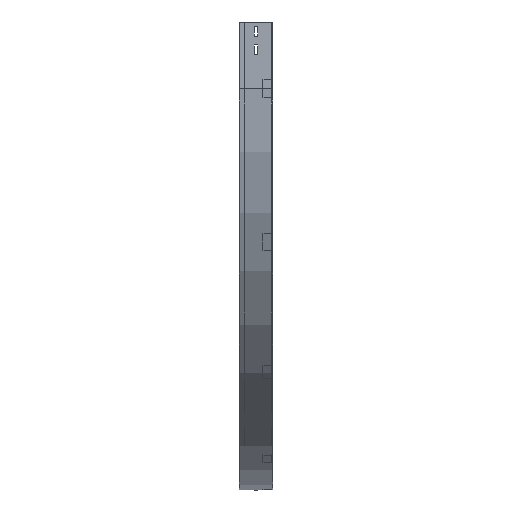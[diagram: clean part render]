
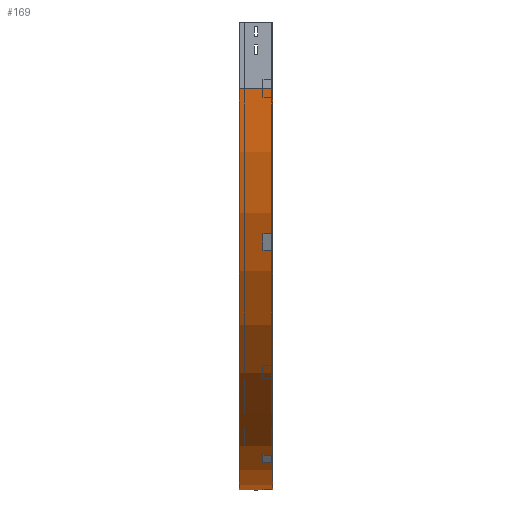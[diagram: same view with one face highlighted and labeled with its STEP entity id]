
A CAD part, left-side view. The second image highlights one B-rep face of the part: STEP entity #169.
In plain terms, the highlighted cylindrical face has radius 900 mm (diameter 1800 mm), a partial arc.
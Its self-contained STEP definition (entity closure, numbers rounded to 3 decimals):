
#59 = CARTESIAN_POINT ( 'NONE',  ( 900., 75., -1050. ) ) ;
#78 = AXIS2_PLACEMENT_3D ( 'NONE', #3080, #475, #415 ) ;
#139 = CIRCLE ( 'NONE', #1144, 900. ) ;
#169 = ADVANCED_FACE ( 'NONE', ( #940 ), #1549, .T. ) ;
#372 = CARTESIAN_POINT ( 'NONE',  ( 0., 0., -150. ) ) ;
#377 = VECTOR ( 'NONE', #1387, 1000. ) ;
#414 = AXIS2_PLACEMENT_3D ( 'NONE', #963, #3051, #3384 ) ;
#415 = DIRECTION ( 'NONE',  ( -1., 0., 0. ) ) ;
#437 = CARTESIAN_POINT ( 'NONE',  ( 0., 75., -150. ) ) ;
#450 = ORIENTED_EDGE ( 'NONE', *, *, #3195, .F. ) ;
#475 = DIRECTION ( 'NONE',  ( 0., -1., 0. ) ) ;
#696 = EDGE_CURVE ( 'NONE', #1860, #2724, #139, .T. ) ;
#779 = EDGE_CURVE ( 'NONE', #2304, #3407, #1395, .T. ) ;
#805 = LINE ( 'NONE', #3102, #377 ) ;
#940 = FACE_OUTER_BOUND ( 'NONE', #2545, .T. ) ;
#963 = CARTESIAN_POINT ( 'NONE',  ( 900., 0., -150. ) ) ;
#994 = ORIENTED_EDGE ( 'NONE', *, *, #3452, .T. ) ;
#1144 = AXIS2_PLACEMENT_3D ( 'NONE', #2208, #1814, #1306 ) ;
#1246 = DIRECTION ( 'NONE',  ( 0., -1., 0. ) ) ;
#1288 = CARTESIAN_POINT ( 'NONE',  ( 900., 0., -1050. ) ) ;
#1306 = DIRECTION ( 'NONE',  ( -1., 0., 0. ) ) ;
#1324 = LINE ( 'NONE', #1288, #3172 ) ;
#1387 = DIRECTION ( 'NONE',  ( 0., -1., 0. ) ) ;
#1395 = CIRCLE ( 'NONE', #78, 900. ) ;
#1549 = CYLINDRICAL_SURFACE ( 'NONE', #414, 900. ) ;
#1814 = DIRECTION ( 'NONE',  ( 0., -1., 0. ) ) ;
#1860 = VERTEX_POINT ( 'NONE', #437 ) ;
#2208 = CARTESIAN_POINT ( 'NONE',  ( 900., 75., -150. ) ) ;
#2304 = VERTEX_POINT ( 'NONE', #372 ) ;
#2454 = ORIENTED_EDGE ( 'NONE', *, *, #696, .T. ) ;
#2545 = EDGE_LOOP ( 'NONE', ( #2662, #450, #2454, #994 ) ) ;
#2662 = ORIENTED_EDGE ( 'NONE', *, *, #779, .F. ) ;
#2724 = VERTEX_POINT ( 'NONE', #59 ) ;
#3051 = DIRECTION ( 'NONE',  ( 0., -1., 0. ) ) ;
#3080 = CARTESIAN_POINT ( 'NONE',  ( 900., 0., -150. ) ) ;
#3102 = CARTESIAN_POINT ( 'NONE',  ( 0., 0., -150. ) ) ;
#3172 = VECTOR ( 'NONE', #1246, 1000. ) ;
#3195 = EDGE_CURVE ( 'NONE', #1860, #2304, #805, .T. ) ;
#3288 = CARTESIAN_POINT ( 'NONE',  ( 900., 0., -1050. ) ) ;
#3384 = DIRECTION ( 'NONE',  ( 0., 0., -1. ) ) ;
#3407 = VERTEX_POINT ( 'NONE', #3288 ) ;
#3452 = EDGE_CURVE ( 'NONE', #2724, #3407, #1324, .T. ) ;
